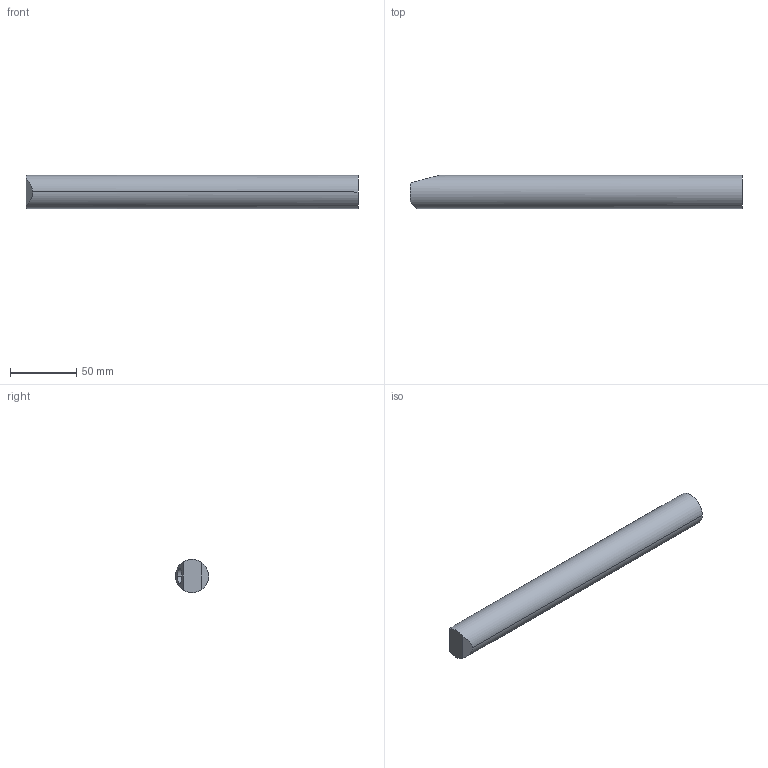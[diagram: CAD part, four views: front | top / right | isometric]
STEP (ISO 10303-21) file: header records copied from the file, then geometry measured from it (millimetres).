
FILE_DESCRIPTION( (''), '2;1');
FILE_NAME ('SY-2080-06_TH-25251-D.stp','2022-04-09T09:02:07',(''),(''),'spGate 18.9.3 (****-****-****-****)','','');
FILE_SCHEMA (('AUTOMOTIVE_DESIGN'));
Length unit declared in the file: millimetre
Products named in the file (2): Assembly; SY-2080-06_TH-25251-D-prt0
Assembly tree (1 placements, depth 2):
  Assembly
    SY-2080-06_TH-25251-D-prt0
Bounding box: 250 x 25 x 25 mm (x, y, z)
Volume: 103749.1 mm3; surface area: 27682.4 mm2
Topology: 1 solids, 1 shells, 21 faces, 46 edges, 26 vertices
Faces by surface type: bspline 10, cylinder 6, plane 5
Entity records: 988 total; most frequent: CARTESIAN_POINT 207, ORIENTED_EDGE 84, DIRECTION 72, COLOUR_RGB 64, PRESENTATION_STYLE_ASSIGNMENT 64, STYLED_ITEM 64, EDGE_CURVE 42, DRAUGHTING_PRE_DEFINED_CURVE_FONT 42
